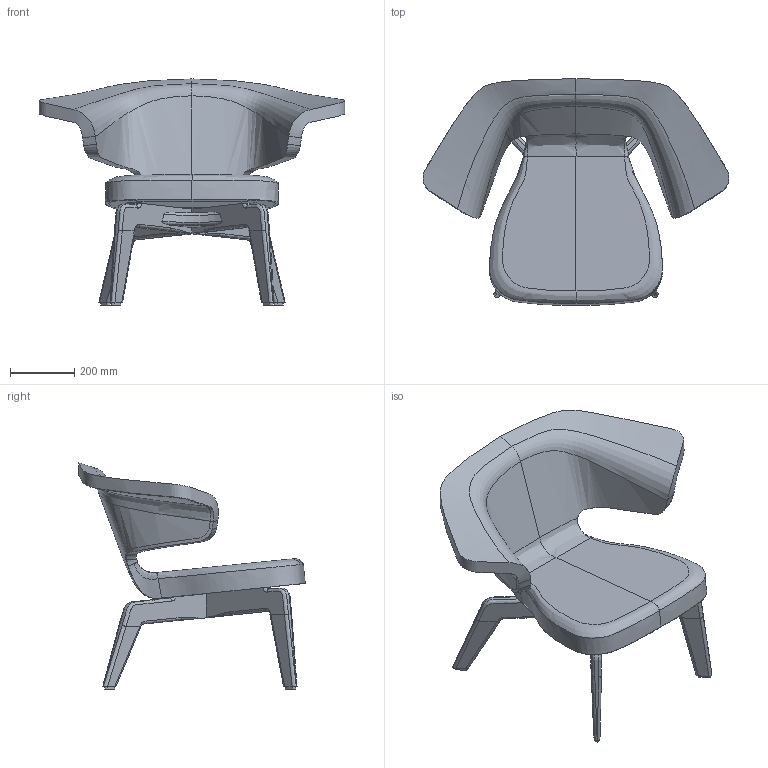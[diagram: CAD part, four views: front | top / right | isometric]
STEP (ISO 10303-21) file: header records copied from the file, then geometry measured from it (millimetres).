
FILE_DESCRIPTION(/* description */ (''),/* implementation_level */ '2;1');
FILE_NAME(/* name */ 'MUNICH-LOUNGE-CHAIR_3D_20231027',/* time_stamp */ '2023-10-27T11:54:45+02:00',/* author */ (''),/* organization */ (''),/* preprocessor_version */ 'ST-DEVELOPER v16.5',/* originating_system */ 'Rhino 7.34',/* authorisation */ '');
FILE_SCHEMA (('CONFIG_CONTROL_DESIGN'));
Length unit declared in the file: millimetre
Products named in the file (1): Document
Bounding box: 954.79 x 706.68 x 705.81 mm (x, y, z)
Volume: 34423682 mm3; surface area: 1843906.4 mm2
Topology: 6 solids, 6 shells, 192 faces, 482 edges, 290 vertices
Faces by surface type: bspline 134, plane 58
Entity records: 53102 total; most frequent: CARTESIAN_POINT 49978, ORIENTED_EDGE 944, EDGE_CURVE 472, B_SPLINE_CURVE_WITH_KNOTS 450, VERTEX_POINT 292, ADVANCED_FACE 192, FACE_OUTER_BOUND 192, EDGE_LOOP 192
